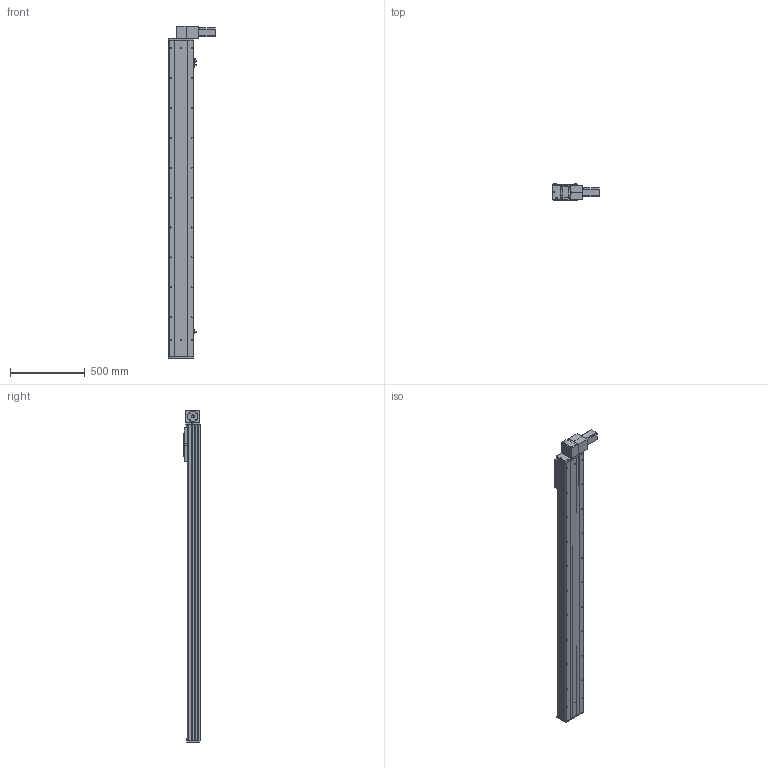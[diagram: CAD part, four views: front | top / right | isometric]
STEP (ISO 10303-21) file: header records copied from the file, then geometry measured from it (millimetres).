
FILE_DESCRIPTION (( 'STEP AP203' ), '1' );
FILE_NAME ('Y170CB-D105-S1800-BD-P400W.STEP', '2020-02-20T08:54:10', ( '微软用户' ), ( '微软中国' ), 'SwSTEP 2.0', 'SolidWorks 2017', '' );
FILE_SCHEMA (( 'CONFIG_CONTROL_DESIGN' ));
Length unit declared in the file: millimetre
Products named in the file (16): Y100-135俋离換覜ん--; 70CB-掛极-; Y170CB-陔俋离換覜結え---; --70CB --喘謫眊楊擘啣-; Y1埴倛裔; 70CB-耜裔啣-; 70B喘謫眊----; 70C--詩湍揤踡え-; 0B薊粣ん眊-400W--; 70CB--耜裔; Y170CB-D105-S1800-BD-P400W; 70C-雄赽釱-奻-; 0C--雄赽釱俋欶-170; B-源倛裔啣; 70CB-詩湍--; san松下电机400不带刹车----
Assembly tree (19 placements, depth 2):
  Y170CB-D105-S1800-BD-P400W
    B-源倛裔啣
    san松下电机400不带刹车----
    70CB-掛极-
    --70CB --喘謫眊楊擘啣-
    70CB-耜裔啣-  x2
    70C--詩湍揤踡え-  x2
    70CB--耜裔
    70C-雄赽釱-奻-
    0C--雄赽釱俋欶-170
    70CB-詩湍--
    Y100-135俋离換覜ん--  x3
    Y170CB-陔俋离換覜結え---
    Y1埴倛裔
    70B喘謫眊----
    0B薊粣ん眊-400W--
Bounding box: 313.5 x 107 x 2216 mm (x, y, z)
Volume: 9976754.9 mm3; surface area: 3462739.7 mm2
Topology: 19 solids, 19 shells, 952 faces, 2522 edges, 1672 vertices
Faces by surface type: cylinder 506, plane 422, cone 24
Entity records: 29887 total; most frequent: CARTESIAN_POINT 5566, DIRECTION 4863, ORIENTED_EDGE 4526, EDGE_CURVE 2263, AXIS2_PLACEMENT_3D 1801, VERTEX_POINT 1502, LINE 1261, VECTOR 1261
